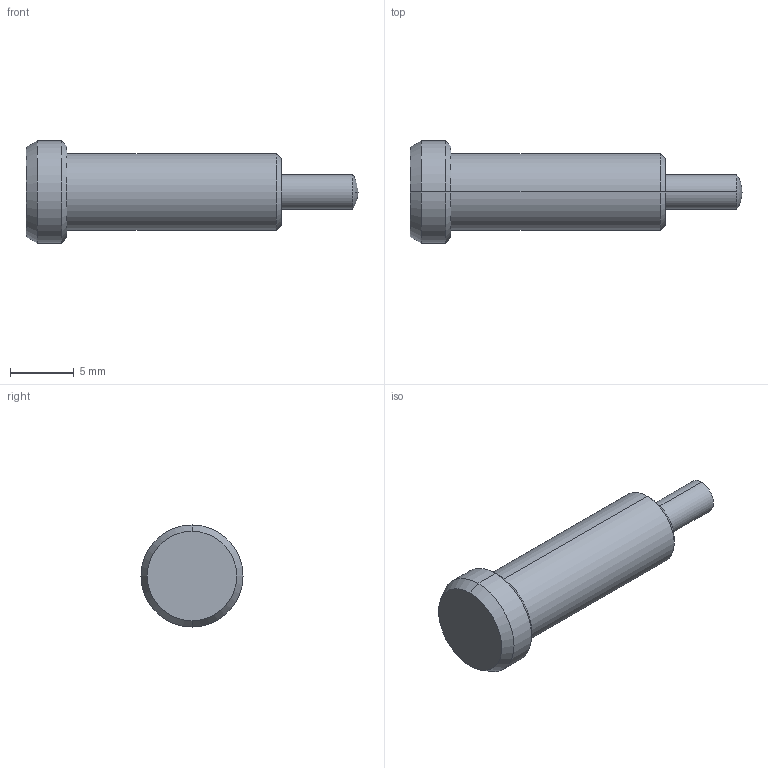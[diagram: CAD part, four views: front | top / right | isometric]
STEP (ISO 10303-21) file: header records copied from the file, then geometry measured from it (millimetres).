
FILE_DESCRIPTION (( 'STEP AP214' ), '1' );
FILE_NAME ('614.6-6-KN.step', '2022-01-17T12:56:19', ( '' ), ( '' ), 'SwSTEP 2.0', 'SolidWorks 2019', '' );
FILE_SCHEMA (( 'AUTOMOTIVE_DESIGN' ));
Length unit declared in the file: millimetre
Products named in the file (3): WB614.6_Bolzen^WB614.6_6-NI; 614.6-6-KN; WB614.6_Führung^WB614.6_6-NI
Assembly tree (2 placements, depth 2):
  614.6-6-KN
    WB614.6_Führung^WB614.6_6-NI
    WB614.6_Bolzen^WB614.6_6-NI
Bounding box: 26 x 8 x 8 mm (x, y, z)
Volume: 616.5 mm3; surface area: 717.7 mm2
Topology: 2 solids, 2 shells, 27 faces, 52 edges, 33 vertices
Faces by surface type: cylinder 12, plane 7, cone 6, sphere 2
Entity records: 810 total; most frequent: DIRECTION 150, CARTESIAN_POINT 117, ORIENTED_EDGE 104, AXIS2_PLACEMENT_3D 66, EDGE_CURVE 52, CIRCLE 34, VERTEX_POINT 33, EDGE_LOOP 31
